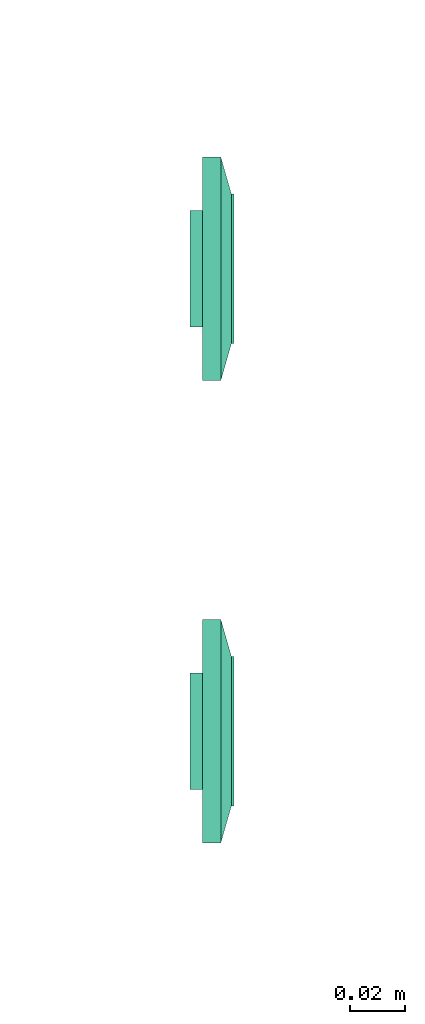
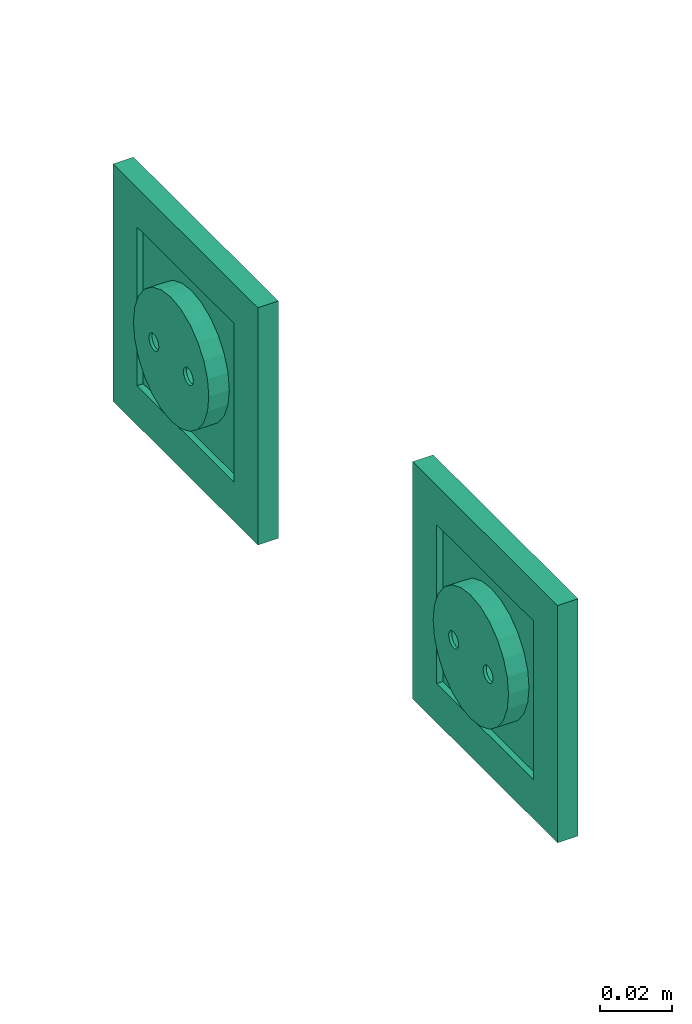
# One storey, part 41 of 153: 2 flow terminals.
"""IFC2X3 building model written with IfcOpenShell, lengths in metres."""

from ifc_helpers import new_model, entity, si_unit, converted_unit, derived_unit, direction, frame, origin, place, context, subcontext, project, spatial, face_set, surface_model, source, transform, mapped, type_object, type_shapes, element, save


model = new_model("IFC2X3")

# Units and contexts
model_context = context("Model", 3, precision=1e-05, world=origin(), true_north=direction((6.12303176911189e-17, 1.0)))
body_context = subcontext(model_context, "Body", "Model", "MODEL_VIEW")
ifc_project = project(units=[si_unit("LENGTHUNIT", "METRE"), si_unit("AREAUNIT", "SQUARE_METRE"), si_unit("VOLUMEUNIT", "CUBIC_METRE"), converted_unit("PLANEANGLEUNIT", "DEGREE", entity("IfcRatioMeasure", 0.0174532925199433), si_unit("PLANEANGLEUNIT", "RADIAN"), dimensions=[0, 0, 0, 0, 0, 0, 0]), si_unit("MASSUNIT", "GRAM", prefix="KILO"), derived_unit("MASSDENSITYUNIT", [(si_unit("MASSUNIT", "GRAM", prefix="KILO"), 1), (si_unit("LENGTHUNIT", "METRE"), -3)]), si_unit("TIMEUNIT", "SECOND"), si_unit("FREQUENCYUNIT", "HERTZ"), si_unit("THERMODYNAMICTEMPERATUREUNIT", "DEGREE_CELSIUS"), derived_unit("THERMALTRANSMITTANCEUNIT", [(si_unit("MASSUNIT", "GRAM", prefix="KILO"), 1), (si_unit("THERMODYNAMICTEMPERATUREUNIT", "KELVIN"), -1), (si_unit("TIMEUNIT", "SECOND"), -3)]), derived_unit("VOLUMETRICFLOWRATEUNIT", [(si_unit("LENGTHUNIT", "METRE"), 3), (si_unit("TIMEUNIT", "SECOND"), -1)]), si_unit("ELECTRICCURRENTUNIT", "AMPERE"), si_unit("ELECTRICVOLTAGEUNIT", "VOLT"), si_unit("POWERUNIT", "WATT"), si_unit("FORCEUNIT", "NEWTON"), si_unit("ILLUMINANCEUNIT", "LUX"), si_unit("LUMINOUSFLUXUNIT", "LUMEN"), si_unit("LUMINOUSINTENSITYUNIT", "CANDELA"), derived_unit("USERDEFINED", [(si_unit("MASSUNIT", "GRAM", prefix="KILO"), -1), (si_unit("LENGTHUNIT", "METRE"), -2), (si_unit("TIMEUNIT", "SECOND"), 3), (si_unit("LUMINOUSFLUXUNIT", "LUMEN"), 1)]), derived_unit("LINEARVELOCITYUNIT", [(si_unit("LENGTHUNIT", "METRE"), 1), (si_unit("TIMEUNIT", "SECOND"), -1)]), si_unit("PRESSUREUNIT", "PASCAL"), derived_unit("USERDEFINED", [(si_unit("LENGTHUNIT", "METRE"), -2), (si_unit("MASSUNIT", "GRAM", prefix="KILO"), 1), (si_unit("TIMEUNIT", "SECOND"), -2)])], contexts=[model_context])

# Site, building, storey
site_placement = place(None, origin())
site = spatial("IfcSite", under=ifc_project, at=site_placement, Name="Default", CompositionType="ELEMENT")
building_placement = place(site_placement, origin())
building = spatial("IfcBuilding", under=site, at=building_placement, CompositionType="ELEMENT")
storey_placement = place(building_placement, frame((0.0, 0.0, -4.62)))
storey = spatial("IfcBuildingStorey", under=building, at=storey_placement, Name="S02", CompositionType="ELEMENT", Elevation=-4.62)

# Flow terminals
light_fixture_type = type_object("IfcLightFixtureType", Name="PC IP44", PredefinedType="NOTDEFINED")
shared_shape = source(origin(), body_context, "Body", "SurfaceModel", [
    surface_model("IfcFaceBasedSurfaceModel", [(-0.00225000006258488, 0.0127499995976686, 0.00949633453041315), (0.0, 0.0104999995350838, 0.00949633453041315), (0.0, 0.0115376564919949, 0.0101656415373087), (0.0, 0.0139623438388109, 0.0101656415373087), (0.0, 0.0144589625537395, 0.00984531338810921), (0.0, 0.0121178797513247, 0.0102778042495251), (0.0, 0.0133821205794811, 0.0102778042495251), (0.0, 0.0127499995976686, 0.010399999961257), (0.0, 0.0149999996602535, 0.00949633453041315), (0.00225000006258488, 0.0127499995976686, 0.00949633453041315), (0.0, 0.0110410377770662, 0.00984531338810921), (0.0, 0.0127499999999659, 0.00949633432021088), (0.00225000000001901, 0.0127499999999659, 0.00949633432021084), (0.00217333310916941, 0.0121676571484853, 0.00949633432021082), (0.00194855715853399, 0.0116249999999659, 0.00949633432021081), (0.00159099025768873, 0.0111590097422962, 0.00949633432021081), (0.001125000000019, 0.010801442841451, 0.00949633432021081), (0.00058234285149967, 0.0105766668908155, 0.00949633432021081), (0.0, 0.0104999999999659, 0.00949633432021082), (-0.000582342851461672, 0.0105766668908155, 0.00949633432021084), (-0.001124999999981, 0.010801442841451, 0.00949633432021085), (-0.00159099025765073, 0.0111590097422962, 0.00949633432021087), (-0.00194855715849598, 0.011624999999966, 0.00949633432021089), (-0.0021733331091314, 0.0121676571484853, 0.00949633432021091), (-0.00224999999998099, 0.012749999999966, 0.00949633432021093), (-0.00217333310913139, 0.0133323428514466, 0.00949633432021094), (-0.00194855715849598, 0.013874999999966, 0.00949633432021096), (-0.00159099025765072, 0.0143409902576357, 0.00949633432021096), (-0.00112499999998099, 0.0146985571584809, 0.00949633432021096), (-0.00058234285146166, 0.0149233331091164, 0.00949633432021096), (0.0, 0.0149999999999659, 0.00949633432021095), (0.000582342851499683, 0.0149233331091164, 0.00949633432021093), (0.00112500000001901, 0.0146985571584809, 0.00949633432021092), (0.00159099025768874, 0.0143409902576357, 0.00949633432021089), (0.001948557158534, 0.0138749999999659, 0.00949633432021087), (0.00217333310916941, 0.0133323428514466, 0.00949633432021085), (0.00225000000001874, 0.0127499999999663, -0.00360000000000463), (0.00217333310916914, 0.0121676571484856, -0.00360000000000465), (0.00194855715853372, 0.0116249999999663, -0.00360000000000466), (0.00159099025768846, 0.0111590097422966, -0.00360000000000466), (0.00112500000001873, 0.0108014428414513, -0.00360000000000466), (0.000582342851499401, 0.0105766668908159, -0.00360000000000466), (0.0, 0.0104999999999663, -0.00360000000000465), (-0.000582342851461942, 0.0105766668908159, -0.00360000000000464), (-0.00112499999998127, 0.0108014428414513, -0.00360000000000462), (-0.001590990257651, 0.0111590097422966, -0.0036000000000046), (-0.00194855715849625, 0.0116249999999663, -0.00360000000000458), (-0.00217333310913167, 0.0121676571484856, -0.00360000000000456), (-0.00224999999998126, 0.0127499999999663, -0.00360000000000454), (-0.00217333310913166, 0.013332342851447, -0.00360000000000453), (-0.00194855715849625, 0.0138749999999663, -0.00360000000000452), (-0.00159099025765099, 0.014340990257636, -0.00360000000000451), (-0.00112499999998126, 0.0146985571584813, -0.00360000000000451), (-0.000582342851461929, 0.0149233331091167, -0.00360000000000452), (0.0, 0.0149999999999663, -0.00360000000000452), (0.000582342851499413, 0.0149233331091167, -0.00360000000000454), (0.00112500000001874, 0.0146985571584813, -0.00360000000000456), (0.00159099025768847, 0.014340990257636, -0.00360000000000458), (0.00194855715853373, 0.0138749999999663, -0.0036000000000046), (0.00217333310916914, 0.013332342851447, -0.00360000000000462), (0.0270000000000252, 0.026999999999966, 0.0113999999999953), (-0.0269999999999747, 0.026999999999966, 0.0113999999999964), (-0.0269999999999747, -0.0270000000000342, 0.0113999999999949), (0.0270000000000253, -0.0270000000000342, 0.0113999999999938), (-0.0199999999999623, 0.0, 0.0113999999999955), (-0.0193185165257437, -0.00517638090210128, 0.0113999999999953), (-0.0173205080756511, -0.0100000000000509, 0.0113999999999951), (-0.0141421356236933, -0.0141421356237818, 0.011399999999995), (-0.00999999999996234, -0.0173205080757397, 0.0113999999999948), (-0.00517638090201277, -0.0193185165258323, 0.0113999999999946), (0.0, -0.0200000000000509, 0.0113999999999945), (0.00517638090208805, -0.0193185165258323, 0.0113999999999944), (0.0100000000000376, -0.0173205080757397, 0.0113999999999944), (0.0141421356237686, -0.0141421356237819, 0.0113999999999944), (0.0173205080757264, -0.010000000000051, 0.0113999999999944), (0.0193185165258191, -0.00517638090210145, 0.0113999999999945), (0.0200000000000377, 0.0, 0.0113999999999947), (0.0193185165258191, 0.00517638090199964, 0.0113999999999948), (0.0173205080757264, 0.0099999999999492, 0.011399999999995), (0.0141421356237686, 0.0141421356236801, 0.0113999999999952), (0.0100000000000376, 0.0173205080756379, 0.0113999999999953), (0.00517638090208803, 0.0193185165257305, 0.0113999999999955), (0.0, 0.0199999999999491, 0.0113999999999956), (-0.00517638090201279, 0.0193185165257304, 0.0113999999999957), (-0.00999999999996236, 0.0173205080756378, 0.0113999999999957), (-0.0141421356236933, 0.01414213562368, 0.0113999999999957), (-0.0173205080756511, 0.00999999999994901, 0.0113999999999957), (-0.0193185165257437, 0.00517638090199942, 0.0113999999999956), (0.0270000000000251, 0.0269999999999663, 0.00199999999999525), (0.0270000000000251, -0.0270000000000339, 0.00199999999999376), (-0.0269999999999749, -0.0270000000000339, 0.00199999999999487), (-0.0269999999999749, 0.0269999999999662, 0.00199999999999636), (0.0210000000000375, 0.0, 0.00199999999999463), (0.0202844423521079, -0.00543519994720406, 0.00199999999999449), (0.0181865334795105, -0.0105000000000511, 0.0019999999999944), (0.0148492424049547, -0.0148492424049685, 0.00199999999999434), (0.0105000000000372, -0.0181865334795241, 0.00199999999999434), (0.0054351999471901, -0.0202844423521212, 0.00199999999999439), (0.0, -0.0210000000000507, 0.00199999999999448), (-0.00543519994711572, -0.020284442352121, 0.00199999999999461), (-0.0104999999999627, -0.0181865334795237, 0.00199999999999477), (-0.0148492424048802, -0.014849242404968, 0.00199999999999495), (-0.0181865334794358, -0.0105000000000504, 0.00199999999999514), (-0.020284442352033, -0.00543519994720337, 0.00199999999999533), (-0.0209999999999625, 0.0, 0.00199999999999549), (-0.0202844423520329, 0.0054351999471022, 0.00199999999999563), (-0.0181865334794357, 0.0104999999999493, 0.00199999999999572), (-0.01484924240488, 0.0148492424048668, 0.00199999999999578), (-0.0104999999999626, 0.0181865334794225, 0.00199999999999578), (-0.00543519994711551, 0.0202844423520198, 0.00199999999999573), (0.0, 0.0209999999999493, 0.00199999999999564), (0.00543519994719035, 0.0202844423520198, 0.00199999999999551), (0.0105000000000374, 0.0181865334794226, 0.00199999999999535), (0.0148492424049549, 0.0148492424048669, 0.00199999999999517), (0.0181865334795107, 0.0104999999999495, 0.00199999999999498), (0.0202844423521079, 0.00543519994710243, 0.00199999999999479), (0.0200000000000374, 0.0, -0.00360000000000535), (0.0193185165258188, -0.00517638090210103, -0.00360000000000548), (0.0173205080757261, -0.0100000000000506, -0.00360000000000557), (0.0141421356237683, -0.0141421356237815, -0.00360000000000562), (0.0100000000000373, -0.0173205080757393, -0.00360000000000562), (0.00517638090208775, -0.0193185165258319, -0.00360000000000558), (0.0, -0.0200000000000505, -0.00360000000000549), (-0.00517638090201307, -0.0193185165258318, -0.00360000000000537), (-0.00999999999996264, -0.0173205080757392, -0.00360000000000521), (-0.0141421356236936, -0.0141421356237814, -0.00360000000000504), (-0.0173205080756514, -0.0100000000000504, -0.00360000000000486), (-0.019318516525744, -0.00517638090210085, -0.00360000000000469), (-0.0199999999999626, 0.0, -0.00360000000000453), (-0.0193185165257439, 0.00517638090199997, -0.0036000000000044), (-0.0173205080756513, 0.00999999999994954, -0.00360000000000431), (-0.0141421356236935, 0.0141421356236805, -0.00360000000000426), (-0.00999999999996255, 0.0173205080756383, -0.00360000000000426), (-0.00517638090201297, 0.0193185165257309, -0.0036000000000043), (0.0, 0.0199999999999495, -0.00360000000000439), (0.00517638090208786, 0.0193185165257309, -0.00360000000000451), (0.0100000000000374, 0.0173205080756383, -0.00360000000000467), (0.0141421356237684, 0.0141421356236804, -0.00360000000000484), (0.0173205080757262, 0.0099999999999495, -0.00360000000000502), (0.0193185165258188, 0.00517638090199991, -0.00360000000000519), (-0.0123499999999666, 0.0, -0.00360000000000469), (-0.0122562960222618, -0.000711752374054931, -0.00360000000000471), (-0.0119815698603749, -0.00137500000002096, -0.00360000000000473), (-0.0115445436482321, -0.00194454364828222, -0.00360000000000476), (-0.0109749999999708, -0.00238156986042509, -0.00360000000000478), (-0.0103117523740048, -0.00265629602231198, -0.0036000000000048), (-0.00959999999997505, -0.00275000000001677, -0.00360000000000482), (-0.0088882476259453, -0.00265629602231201, -0.00360000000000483), (-0.00822499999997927, -0.00238156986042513, -0.00360000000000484), (-0.00765545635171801, -0.00194454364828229, -0.00360000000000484), (-0.00721843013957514, -0.00137500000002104, -0.00360000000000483), (-0.00694370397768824, -0.000711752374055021, -0.00360000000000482), (-0.00684999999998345, 0.0, -0.0036000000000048), (-0.00694370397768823, 0.000711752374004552, -0.00360000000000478), (-0.00721843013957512, 0.00137499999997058, -0.00360000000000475), (-0.00765545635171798, 0.00194454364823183, -0.00360000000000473), (-0.00822499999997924, 0.00238156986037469, -0.0036000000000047), (-0.00888824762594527, 0.00265629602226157, -0.00360000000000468), (-0.00959999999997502, 0.00274999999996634, -0.00360000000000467), (-0.0103117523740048, 0.00265629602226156, -0.00360000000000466), (-0.0109749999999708, 0.00238156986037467, -0.00360000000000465), (-0.011544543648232, 0.00194454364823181, -0.00360000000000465), (-0.0119815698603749, 0.00137499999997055, -0.00360000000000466), (-0.0122562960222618, 0.000711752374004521, -0.00360000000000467), (0.00685000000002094, 0.0, -0.00360000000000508), (0.0069437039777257, -0.00071175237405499, -0.0036000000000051), (0.00721843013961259, -0.00137500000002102, -0.00360000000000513), (0.00765545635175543, -0.00194454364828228, -0.00360000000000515), (0.00822500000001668, -0.00238156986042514, -0.00360000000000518), (0.00888824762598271, -0.00265629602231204, -0.0036000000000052), (0.00960000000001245, -0.00275000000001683, -0.00360000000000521), (0.0103117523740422, -0.00265629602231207, -0.00360000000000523), (0.0109750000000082, -0.00238156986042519, -0.00360000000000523), (0.0115445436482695, -0.00194454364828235, -0.00360000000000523), (0.0119815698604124, -0.0013750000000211, -0.00360000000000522), (0.0122562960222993, -0.00071175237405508, -0.00360000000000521), (0.012350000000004, 0.0, -0.00360000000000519), (0.0122562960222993, 0.000711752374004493, -0.00360000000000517), (0.0119815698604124, 0.00137499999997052, -0.00360000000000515), (0.0115445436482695, 0.00194454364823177, -0.00360000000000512), (0.0109750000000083, 0.00238156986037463, -0.0036000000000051), (0.0103117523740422, 0.00265629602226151, -0.00360000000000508), (0.00960000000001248, 0.00274999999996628, -0.00360000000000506), (0.00888824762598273, 0.0026562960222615, -0.00360000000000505), (0.0082250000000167, 0.00238156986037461, -0.00360000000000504), (0.00765545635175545, 0.00194454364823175, -0.00360000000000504), (0.0072184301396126, 0.00137499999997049, -0.00360000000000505), (0.00694370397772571, 0.000711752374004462, -0.00360000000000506), (0.0210000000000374, 0.0, -0.00460000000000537), (0.0202844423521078, -0.00543519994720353, -0.00460000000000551), (0.0181865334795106, -0.0105000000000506, -0.0046000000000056), (0.0148492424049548, -0.0148492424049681, -0.00460000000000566), (0.0105000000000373, -0.0181865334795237, -0.00460000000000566), (0.00543519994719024, -0.0202844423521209, -0.00460000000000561), (0.0, -0.0210000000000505, -0.00460000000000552), (-0.00543519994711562, -0.0202844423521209, -0.00460000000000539), (-0.0104999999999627, -0.0181865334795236, -0.00460000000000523), (-0.0148492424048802, -0.0148492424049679, -0.00460000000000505), (-0.0181865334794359, -0.0105000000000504, -0.00460000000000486), (-0.0202844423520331, -0.00543519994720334, -0.00460000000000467), (-0.0209999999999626, 0.0, -0.00460000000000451), (-0.020284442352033, 0.00543519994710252, -0.00460000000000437), (-0.0181865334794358, 0.0104999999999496, -0.00460000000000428), (-0.0148492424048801, 0.0148492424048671, -0.00460000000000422), (-0.0104999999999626, 0.0181865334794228, -0.00460000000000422), (-0.00543519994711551, 0.02028444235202, -0.00460000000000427), (0.0, 0.0209999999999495, -0.00460000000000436), (0.00543519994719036, 0.02028444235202, -0.00460000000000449), (0.0105000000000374, 0.0181865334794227, -0.00460000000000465), (0.0148492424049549, 0.014849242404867, -0.00460000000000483), (0.0181865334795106, 0.0104999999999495, -0.00460000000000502), (0.0202844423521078, 0.00543519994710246, -0.00460000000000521), (-0.00684999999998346, 0.0, -0.0046000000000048), (-0.00694370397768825, 0.000711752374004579, -0.00460000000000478), (-0.00721843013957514, 0.00137499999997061, -0.00460000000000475), (-0.007655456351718, 0.00194454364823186, -0.00460000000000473), (-0.00822499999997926, 0.00238156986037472, -0.0046000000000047), (-0.00888824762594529, 0.0026562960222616, -0.00460000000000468), (-0.00959999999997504, 0.00274999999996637, -0.00460000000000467), (-0.0103117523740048, 0.00265629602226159, -0.00460000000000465), (-0.0109749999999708, 0.0023815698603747, -0.00460000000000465), (-0.0115445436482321, 0.00194454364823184, -0.00460000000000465), (-0.0119815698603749, 0.00137499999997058, -0.00460000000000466), (-0.0122562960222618, 0.000711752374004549, -0.00460000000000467), (-0.0123499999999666, 0.0, -0.00460000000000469), (-0.0122562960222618, -0.000711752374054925, -0.00460000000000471), (-0.0119815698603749, -0.00137500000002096, -0.00460000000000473), (-0.0115445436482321, -0.00194454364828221, -0.00460000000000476), (-0.0109749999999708, -0.00238156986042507, -0.00460000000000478), (-0.0103117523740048, -0.00265629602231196, -0.0046000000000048), (-0.00959999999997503, -0.00275000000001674, -0.00460000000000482), (-0.00888824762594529, -0.00265629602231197, -0.00460000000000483), (-0.00822499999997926, -0.00238156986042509, -0.00460000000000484), (-0.007655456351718, -0.00194454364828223, -0.00460000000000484), (-0.00721843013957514, -0.00137500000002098, -0.00460000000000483), (-0.00694370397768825, -0.000711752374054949, -0.00460000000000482), (0.012350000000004, 0.0, -0.00460000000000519), (0.0122562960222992, 0.000711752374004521, -0.00460000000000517), (0.0119815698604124, 0.00137499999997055, -0.00460000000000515), (0.0115445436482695, 0.0019445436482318, -0.00460000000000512), (0.0109750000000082, 0.00238156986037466, -0.0046000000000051), (0.0103117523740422, 0.00265629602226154, -0.00460000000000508), (0.00960000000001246, 0.00274999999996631, -0.00460000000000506), (0.00888824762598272, 0.00265629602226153, -0.00460000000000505), (0.00822500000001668, 0.00238156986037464, -0.00460000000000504), (0.00765545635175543, 0.00194454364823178, -0.00460000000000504), (0.00721843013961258, 0.00137499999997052, -0.00460000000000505), (0.00694370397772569, 0.00071175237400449, -0.00460000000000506), (0.00685000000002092, 0.0, -0.00460000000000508), (0.00694370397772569, -0.000711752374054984, -0.0046000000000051), (0.00721843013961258, -0.00137500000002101, -0.00460000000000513), (0.00765545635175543, -0.00194454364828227, -0.00460000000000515), (0.00822500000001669, -0.00238156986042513, -0.00460000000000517), (0.00888824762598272, -0.00265629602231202, -0.0046000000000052), (0.00960000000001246, -0.0027500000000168, -0.00460000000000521), (0.0103117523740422, -0.00265629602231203, -0.00460000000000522), (0.0109750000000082, -0.00238156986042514, -0.00460000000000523), (0.0115445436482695, -0.00194454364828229, -0.00460000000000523), (0.0119815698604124, -0.00137500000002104, -0.00460000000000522), (0.0122562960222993, -0.000711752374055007, -0.00460000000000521), (0.040350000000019, 0.0403499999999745, 0.00659999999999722), (0.040350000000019, -0.0403500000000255, 0.00659999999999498), (-0.0403499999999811, -0.0403500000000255, 0.00659999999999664), (-0.0403499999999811, 0.0403499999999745, 0.00659999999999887), (0.027000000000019, 0.0269999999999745, 0.00659999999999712), (-0.0269999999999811, 0.0269999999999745, 0.00659999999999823), (-0.026999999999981, -0.0270000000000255, 0.00659999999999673), (0.027000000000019, -0.0270000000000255, 0.00659999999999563), (0.027000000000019, 0.0269999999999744, 0.0103999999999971), (-0.026999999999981, 0.0269999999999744, 0.0103999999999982), (-0.026999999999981, -0.0270000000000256, 0.0103999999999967), (0.027000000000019, -0.0270000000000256, 0.0103999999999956), (0.040350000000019, 0.0403499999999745, 0.00659999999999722), (0.040350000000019, -0.0403500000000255, 0.00659999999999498), (-0.0403499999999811, -0.0403500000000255, 0.00659999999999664), (-0.0403499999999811, 0.0403499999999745, 0.00659999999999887), (-0.0269999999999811, 0.0269999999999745, 0.00659999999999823), (-0.0269999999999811, -0.0270000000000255, 0.00659999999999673), (0.0270000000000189, -0.0270000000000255, 0.00659999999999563), (0.0270000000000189, 0.0269999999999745, 0.00659999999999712), (0.0403500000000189, 0.0403499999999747, 0.0), (0.0403500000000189, -0.0403500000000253, 0.0), (-0.0403499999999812, -0.0403500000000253, 0.0), (-0.0403499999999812, 0.0403499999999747, 0.0), (0.0270000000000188, 0.0269999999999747, 0.0), (-0.0269999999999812, 0.0269999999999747, 0.0), (-0.0269999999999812, -0.0270000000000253, 0.0), (0.0270000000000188, -0.0270000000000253, 0.0)], [face_set([[[0, 1, 2]], [[3, 4, 2, 5]], [[6, 3, 5, 7]], [[2, 4, 0]], [[4, 8, 0]], [[3, 9, 8]], [[1, 9, 10]], [[2, 3, 6, 7]], [[3, 10, 9]], [[2, 10, 3]], [[11, 1, 0, 8]], [[11, 8, 9, 1]]]), face_set([[[12, 13, 14, 15, 16, 17, 18, 19, 20, 21, 22, 23, 24, 25, 26, 27, 28, 29, 30, 31, 32, 33, 34, 35]], [[36, 37, 38, 39, 40, 41, 42, 43, 44, 45, 46, 47, 48, 49, 50, 51, 52, 53, 54, 55, 56, 57, 58, 59]], [[48, 47, 23, 24]], [[47, 46, 22, 23]], [[45, 44, 20, 21]], [[46, 45, 21, 22]], [[44, 43, 19, 20]], [[18, 19, 43, 42]], [[42, 41, 17, 18]], [[41, 40, 16, 17]], [[39, 38, 14, 15]], [[40, 39, 15, 16]], [[38, 37, 13, 14]], [[12, 13, 37, 36]], [[36, 59, 35, 12]], [[59, 58, 34, 35]], [[57, 56, 32, 33]], [[58, 57, 33, 34]], [[56, 55, 31, 32]], [[30, 31, 55, 54]], [[54, 53, 29, 30]], [[53, 52, 28, 29]], [[51, 50, 26, 27]], [[52, 51, 27, 28]], [[50, 49, 25, 26]], [[24, 25, 49, 48]]]), face_set([[[60, 61, 62, 63], [64, 65, 66, 67, 68, 69, 70, 71, 72, 73, 74, 75, 76, 77, 78, 79, 80, 81, 82, 83, 84, 85, 86, 87]], [[88, 89, 90, 91], [92, 93, 94, 95, 96, 97, 98, 99, 100, 101, 102, 103, 104, 105, 106, 107, 108, 109, 110, 111, 112, 113, 114, 115]], [[61, 60, 88, 91]], [[62, 61, 91, 90]], [[63, 62, 90, 89]], [[60, 63, 89, 88]], [[116, 117, 118, 119, 120, 121, 122, 123, 124, 125, 126, 127, 128, 129, 130, 131, 132, 133, 134, 135, 136, 137, 138, 139], [140, 141, 142, 143, 144, 145, 146, 147, 148, 149, 150, 151, 152, 153, 154, 155, 156, 157, 158, 159, 160, 161, 162, 163], [164, 165, 166, 167, 168, 169, 170, 171, 172, 173, 174, 175, 176, 177, 178, 179, 180, 181, 182, 183, 184, 185, 186, 187]], [[64, 128, 127, 65]], [[65, 127, 126, 66]], [[67, 125, 124, 68]], [[66, 126, 125, 67]], [[68, 124, 123, 69]], [[122, 70, 69, 123]], [[70, 122, 121, 71]], [[71, 121, 120, 72]], [[73, 119, 118, 74]], [[72, 120, 119, 73]], [[74, 118, 117, 75]], [[116, 76, 75, 117]], [[76, 116, 139, 77]], [[77, 139, 138, 78]], [[79, 137, 136, 80]], [[78, 138, 137, 79]], [[80, 136, 135, 81]], [[134, 82, 81, 135]], [[82, 134, 133, 83]], [[83, 133, 132, 84]], [[84, 132, 131, 85]], [[85, 131, 130, 86]], [[130, 129, 87, 86]], [[64, 87, 129, 128]], [[188, 189, 190, 191, 192, 193, 194, 195, 196, 197, 198, 199, 200, 201, 202, 203, 204, 205, 206, 207, 208, 209, 210, 211], [212, 213, 214, 215, 216, 217, 218, 219, 220, 221, 222, 223, 224, 225, 226, 227, 228, 229, 230, 231, 232, 233, 234, 235], [236, 237, 238, 239, 240, 241, 242, 243, 244, 245, 246, 247, 248, 249, 250, 251, 252, 253, 254, 255, 256, 257, 258, 259]], [[200, 199, 103, 104]], [[199, 198, 102, 103]], [[197, 196, 100, 101]], [[198, 197, 101, 102]], [[196, 195, 99, 100]], [[98, 99, 195, 194]], [[194, 193, 97, 98]], [[193, 192, 96, 97]], [[191, 190, 94, 95]], [[192, 191, 95, 96]], [[190, 189, 93, 94]], [[92, 93, 189, 188]], [[188, 211, 115, 92]], [[211, 210, 114, 115]], [[209, 208, 112, 113]], [[210, 209, 113, 114]], [[208, 207, 111, 112]], [[110, 111, 207, 206]], [[206, 205, 109, 110]], [[205, 204, 108, 109]], [[203, 202, 106, 107]], [[204, 203, 107, 108]], [[202, 201, 105, 106]], [[104, 105, 201, 200]], [[141, 225, 226, 142]], [[140, 224, 225, 141]], [[144, 228, 229, 145]], [[143, 227, 228, 144]], [[142, 226, 227, 143]], [[230, 146, 145, 229]], [[149, 233, 232, 148]], [[148, 232, 231, 147]], [[152, 212, 235, 151]], [[151, 235, 234, 150]], [[150, 234, 233, 149]], [[146, 230, 231, 147]], [[154, 214, 213, 153]], [[153, 213, 212, 152]], [[157, 217, 216, 156]], [[156, 216, 215, 155]], [[155, 215, 214, 154]], [[218, 158, 157, 217]], [[160, 220, 221, 161]], [[159, 219, 220, 160]], [[163, 223, 224, 140]], [[162, 222, 223, 163]], [[161, 221, 222, 162]], [[158, 218, 219, 159]], [[166, 250, 249, 165]], [[165, 249, 248, 164]], [[169, 253, 252, 168]], [[168, 252, 251, 167]], [[167, 251, 250, 166]], [[254, 170, 169, 253]], [[172, 256, 257, 173]], [[171, 255, 256, 172]], [[175, 259, 236, 176]], [[174, 258, 259, 175]], [[173, 257, 258, 174]], [[170, 254, 255, 171]], [[177, 237, 238, 178]], [[176, 236, 237, 177]], [[180, 240, 241, 181]], [[179, 239, 240, 180]], [[178, 238, 239, 179]], [[242, 182, 181, 241]], [[185, 245, 244, 184]], [[184, 244, 243, 183]], [[164, 248, 247, 187]], [[187, 247, 246, 186]], [[186, 246, 245, 185]], [[182, 242, 243, 183]]]), face_set([[[260, 261, 262, 263], [264, 265, 266, 267]], [[260, 268, 269, 263]], [[263, 269, 270, 262]], [[262, 270, 271, 261]], [[261, 271, 268, 260]], [[264, 265, 269, 268]], [[265, 266, 270, 269]], [[266, 267, 271, 270]], [[268, 271, 267, 264]]]), face_set([[[272, 273, 274, 275], [276, 277, 278, 279]], [[280, 281, 282, 283], [284, 285, 286, 287]], [[275, 272, 280, 283]], [[274, 275, 283, 282]], [[273, 274, 282, 281]], [[272, 273, 281, 280]], [[284, 285, 276, 279]], [[285, 286, 277, 276]], [[286, 287, 278, 277]], [[279, 278, 287, 284]]])]),
])
type_shapes(light_fixture_type, [shared_shape])
for number, where, z_axis, x_axis in (
    (1, (39.6547436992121, -192.302651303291, 0.300000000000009), (1.0, 0.0, 0.0), (0.0, 1.0, 0.0)),
    (2, (39.6547436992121, -192.135651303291, 0.300000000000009), (1.0, 0.0, 0.0), (0.0, 1.0, 0.0)),
):
    element("IfcFlowTerminal", number, at=place(storey_placement, frame(where, z_axis=z_axis, x_axis=x_axis)), inside=storey, type_object=light_fixture_type, Name="INT Prise de courant:PC IP44", ObjectType="INT Prise de courant:PC IP44", context=body_context, shape_type="MappedRepresentation", body=[
        mapped(shared_shape, transform((0.0, 0.0, 0.0), scale=1.0)),
    ])

save(model, "model.ifc")
